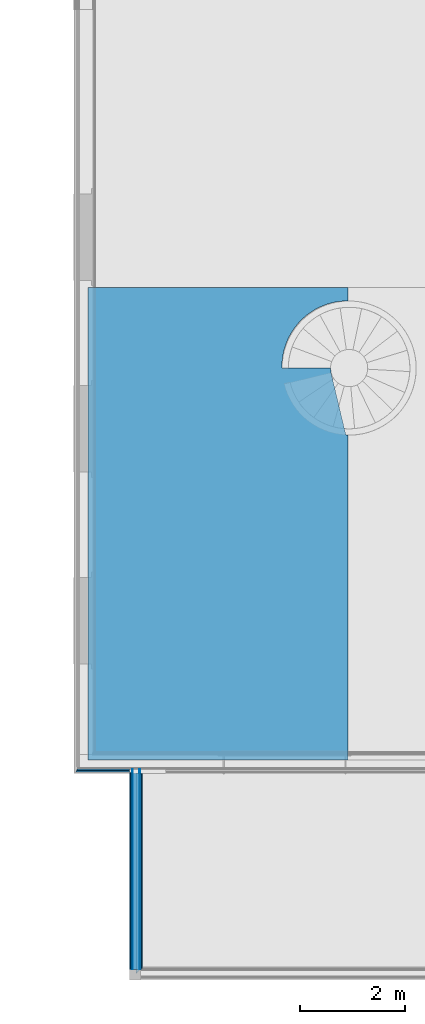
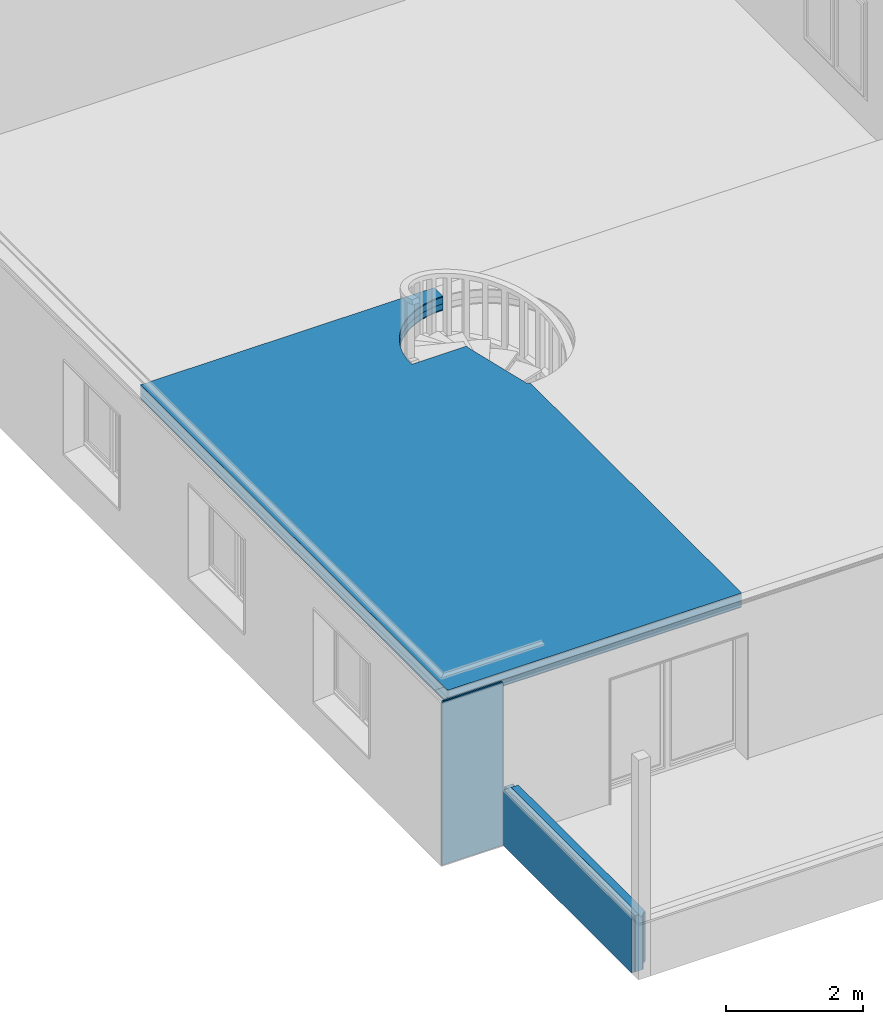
# One storey, part 3 of 36: 14 building element parts, 6 elements without a shape of their own.
"""IFC4 building model written with IfcOpenShell, lengths in millimetres."""

from ifc_helpers import new_model, entity, si_unit, converted_unit, derived_unit, direction, frame, origin_with_axes, place, context, subcontext, project, spatial, polygons, material, type_object, element, aggregate, save


model = new_model("IFC4")

# Units and contexts
model_context = context("Model", 3, precision=0.01, world=origin_with_axes(), true_north=direction((0.0, 1.0)))
body_context = subcontext(model_context, "Body", "Model", "MODEL_VIEW")
ifc_project = project(units=[si_unit("LENGTHUNIT", "METRE", prefix="MILLI"), si_unit("AREAUNIT", "SQUARE_METRE"), si_unit("VOLUMEUNIT", "CUBIC_METRE"), converted_unit("PLANEANGLEUNIT", "DEGREE", entity("IfcPlaneAngleMeasure", 0.0174532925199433), si_unit("PLANEANGLEUNIT", "RADIAN"), dimensions=[0, 0, 0, 0, 0, 0, 0]), converted_unit("TIMEUNIT", "Year", entity("IfcTimeMeasure", 31557600.0), si_unit("TIMEUNIT", "SECOND"), dimensions=[0, 0, 1, 0, 0, 0, 0]), si_unit("MASSUNIT", "GRAM", prefix="KILO"), si_unit("THERMODYNAMICTEMPERATUREUNIT", "DEGREE_CELSIUS"), si_unit("LUMINOUSINTENSITYUNIT", "LUMEN"), si_unit("ENERGYUNIT", "JOULE", prefix="MEGA"), derived_unit("THERMALCONDUCTANCEUNIT", [(si_unit("POWERUNIT", "WATT"), 1), (si_unit("LENGTHUNIT", "METRE"), -1), (si_unit("THERMODYNAMICTEMPERATUREUNIT", "KELVIN"), -1)]), derived_unit("SPECIFICHEATCAPACITYUNIT", [(si_unit("ENERGYUNIT", "JOULE"), 1), (si_unit("MASSUNIT", "GRAM", prefix="KILO"), -1), (si_unit("THERMODYNAMICTEMPERATUREUNIT", "KELVIN"), -1)]), derived_unit("MASSDENSITYUNIT", [(si_unit("MASSUNIT", "GRAM", prefix="KILO"), 1), (si_unit("VOLUMEUNIT", "CUBIC_METRE"), -1)])], contexts=[model_context])

# Site, building, storey
site_placement = place(None, origin_with_axes())
site = spatial("IfcSite", under=ifc_project, at=site_placement, Name="Gelände", CompositionType="ELEMENT")
building_placement = place(site_placement, origin_with_axes())
building = spatial("IfcBuilding", under=site, at=building_placement, Name="Gebäude", CompositionType="ELEMENT")
storey_placement = place(building_placement, frame((0.0, 0.0, 8700.0), z_axis=(0.0, 0.0, 1.0), x_axis=(1.0, 0.0, 0.0)))
storey = spatial("IfcBuildingStorey", under=building, at=storey_placement, Name="Attika", CompositionType="ELEMENT", Elevation=8700.0)

# Curtain wall, building element parts
curtain_wall_type_1 = type_object("IfcCurtainWallType", Name="Fassade Typ 02 - Vertikale Schalung 71", PredefinedType="NOTDEFINED")
curtain_wall_1_placement = place(storey_placement, frame((18974.99747005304, 8447.597281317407, 500.0000000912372), z_axis=(0.0, 0.0, 1.0), x_axis=(-1.0, 0.0, 0.0)))
curtain_wall_1 = element("IfcCurtainWall", 1, at=curtain_wall_1_placement, inside=storey, type_object=curtain_wall_type_1, Name="Wand-014", PredefinedType="NOTDEFINED")
ifc_material_1 = material(Name="Lattenrost horizontal")
building_element_part_1_placement = place(curtain_wall_1_placement, origin_with_axes())
building_element_part_1 = element("IfcBuildingElementPart", 2, at=building_element_part_1_placement, material=ifc_material_1, Name="Lattenrost horizontal", PredefinedType="NOTDEFINED", context=body_context, shape_type="Tessellation", body=[
    polygons([(1025.000025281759, -45.99999999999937, 4.750068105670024), (1000.000025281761, -45.9999999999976, 7.217997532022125), (0.0, -45.99999999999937, 7.217997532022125), (0.0, -45.99999999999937, 0.0), (1025.000025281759, -45.99999999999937, 0.0), (1025.000025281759, -21.0000000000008, 4.750068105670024), (0.0, -21.0000000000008, 4.750068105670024), (0.0, -21.0000000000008, 0.0), (1025.000025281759, -21.0000000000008, 0.0)], [[[1, 2, 3, 4, 5]], [[6, 2, 1]], [[2, 6, 7, 3]], [[3, 7, 8, 4]], [[9, 5, 4, 8]], [[6, 1, 5, 9]], [[7, 6, 9, 8]]], closed=True),
    polygons([(1025.000025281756, -20.99999999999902, 7.665565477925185), (1000.000025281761, -45.99999999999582, 10.23497075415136), (0.0, -45.99999999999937, 10.23497075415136), (0.0, -21.0000000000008, 7.665565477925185), (1025.000025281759, -45.99999999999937, 7.665565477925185), (1025.000025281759, -45.99999999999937, 2899.999999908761), (0.0, -45.99999999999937, 2899.999999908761), (0.0, -20.99999999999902, 2899.999999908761), (1025.000025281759, -20.99999999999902, 2899.999999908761)], [[[1, 2, 3, 4]], [[5, 2, 1]], [[2, 5, 6, 7, 3]], [[4, 3, 7, 8]], [[1, 4, 8, 9]], [[5, 1, 9, 6]], [[6, 9, 8, 7]]], closed=True),
])
ifc_material_2 = material(Name="Lattenrost vertikal")
building_element_part_2_placement = place(curtain_wall_1_placement, origin_with_axes())
building_element_part_2 = element("IfcBuildingElementPart", 3, at=building_element_part_2_placement, material=ifc_material_2, Name="Lattenrost vertikal", PredefinedType="NOTDEFINED", context=body_context, shape_type="Tessellation", body=[
    polygons([(1000.000025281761, -70.99999999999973, 7.217997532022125), (975.0000252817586, -70.99999999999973, 9.685926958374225), (0.0, -70.99999999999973, 9.685926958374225), (0.0, -70.99999999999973, 0.0), (1000.000025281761, -70.99999999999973, 0.0), (1000.000025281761, -45.99999999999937, 7.217997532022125), (0.0, -45.99999999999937, 7.217997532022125), (0.0, -45.99999999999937, 0.0), (1000.000025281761, -45.99999999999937, 0.0)], [[[1, 2, 3, 4, 5]], [[6, 2, 1]], [[2, 6, 7, 3]], [[3, 7, 8, 4]], [[9, 5, 4, 8]], [[6, 1, 5, 9]], [[7, 6, 9, 8]]], closed=True),
    polygons([(977.7000264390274, -68.29999884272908, 42.69563016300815), (977.7000264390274, -70.99999999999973, 42.69563016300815), (975.0000252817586, -70.99999999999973, 42.69563016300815), (0.0, -70.99999999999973, 42.69563016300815), (0.0, -68.29999884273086, 42.69563016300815), (977.7000264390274, -70.99999999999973, 12.52688014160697), (977.7000264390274, -68.29999884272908, 12.52688014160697), (1000.000025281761, -70.99999999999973, 10.23497075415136), (1000.000025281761, -70.99999999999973, 2899.999999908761), (0.0, -70.99999999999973, 2899.999999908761), (0.0, -68.29999884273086, 12.52688014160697), (0.0, -45.99999999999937, 2899.999999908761), (0.0, -45.99999999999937, 10.23497075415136), (1000.000025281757, -45.9999999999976, 10.23497075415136), (1000.000025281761, -45.99999999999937, 2899.999999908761)], [[[1, 2, 3, 4, 5]], [[6, 2, 1, 7]], [[6, 8, 9, 10, 4, 3, 2]], [[11, 5, 4, 10, 12, 13]], [[7, 1, 5, 11]], [[8, 6, 7, 14]], [[8, 14, 15, 9]], [[9, 15, 12, 10]], [[14, 13, 12, 15]], [[14, 7, 11, 13]]], closed=True),
])
aggregate(curtain_wall_1, [building_element_part_1, building_element_part_2])

# Curtain wall, building element part
curtain_wall_type_2 = type_object("IfcCurtainWallType", Name="Fassade Typ 03 - Horizontale Schalung 46", PredefinedType="NOTDEFINED")
curtain_wall_2_placement = place(storey_placement, frame((18974.99747005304, 8447.497281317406, 499.9998959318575), z_axis=(0.0, 0.0, 1.0), x_axis=(0.0, -1.0, 0.0)))
curtain_wall_2 = element("IfcCurtainWall", 4, at=curtain_wall_2_placement, inside=storey, type_object=curtain_wall_type_2, Name="Wand-017", PredefinedType="NOTDEFINED")
building_element_part_3_placement = place(curtain_wall_2_placement, origin_with_axes())
building_element_part_3 = element("IfcBuildingElementPart", 5, at=building_element_part_3_placement, material=ifc_material_2, Name="Lattenrost vertikal", PredefinedType="NOTDEFINED", context=body_context, shape_type="Tessellation", body=[
    polygons([(0.0, 21.0000000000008, 0.0), (0.0, 45.99999999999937, 0.0), (3728.899999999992, 45.99999999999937, 0.0), (3728.899999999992, 21.0000000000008, 0.0), (0.0, 21.0000000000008, 1000.0), (0.0, 45.99999999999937, 1000.0), (3728.899999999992, 45.99999999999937, 1000.0), (3728.899999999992, 21.0000000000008, 1000.0)], [[[1, 2, 3, 4]], [[5, 6, 2, 1]], [[2, 6, 7, 3]], [[8, 4, 3, 7]], [[5, 1, 4, 8]], [[6, 5, 8, 7]]], closed=True),
])

# Curtain wall, building element parts
curtain_wall_3_placement = place(storey_placement, frame((19216.99749132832, 8426.547059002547, 619.9998959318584), z_axis=(0.0, 0.0, 1.0), x_axis=(0.0, -1.0, 0.0)))
curtain_wall_3 = element("IfcCurtainWall", 6, at=curtain_wall_3_placement, inside=storey, type_object=curtain_wall_type_2, Name="Wand-017", PredefinedType="NOTDEFINED")
ifc_material_3 = material(Name="Falzschalung horizontal")
building_element_part_4_placement = place(curtain_wall_3_placement, origin_with_axes())
building_element_part_4 = element("IfcBuildingElementPart", 7, at=building_element_part_4_placement, material=ifc_material_3, Name="Falzschalung horizontal", PredefinedType="NOTDEFINED", context=body_context, shape_type="Tessellation", body=[
    polygons([(3686.949777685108, 0.0, 879.999999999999), (3686.949777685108, 0.0, 0.09999999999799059), (0.0, 0.0, 0.09999999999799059), (0.0, 0.0, 879.999999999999), (3686.949777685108, -21.0000000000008, 879.999999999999), (3686.949777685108, -21.0000000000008, 0.09999999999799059), (0.0, -21.0000000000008, 0.09999999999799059), (0.0, -21.0000000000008, 879.999999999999)], [[[1, 2, 3, 4]], [[5, 6, 2, 1]], [[6, 7, 3, 2]], [[4, 3, 7, 8]], [[8, 5, 1, 4]], [[8, 7, 6, 5]]], closed=True),
])
building_element_part_5_placement = place(curtain_wall_3_placement, origin_with_axes())
building_element_part_5 = element("IfcBuildingElementPart", 8, at=building_element_part_5_placement, material=ifc_material_2, Name="Lattenrost vertikal", PredefinedType="NOTDEFINED", context=body_context, shape_type="Tessellation", body=[
    polygons([(3707.949777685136, -42.00002127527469, 879.999999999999), (3711.949777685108, -42.00002127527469, 879.999999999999), (3711.949777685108, -21.0000000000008, 879.999999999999), (0.0, -21.0000000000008, 879.999999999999), (0.0, -45.99999999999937, 879.999999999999), (3707.949777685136, -45.99999999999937, 879.999999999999), (3707.949777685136, -42.00002127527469, 0.0), (3711.949777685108, -42.00002127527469, 0.0), (3711.949777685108, -21.0000000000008, 0.0), (0.0, -21.0000000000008, 0.0), (0.0, -45.99999999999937, 0.0), (3707.949777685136, -45.99999999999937, 0.0)], [[[1, 2, 3, 4, 5, 6]], [[2, 1, 7, 8]], [[2, 8, 9, 3]], [[4, 3, 9, 10]], [[10, 11, 5, 4]], [[12, 6, 5, 11]], [[1, 6, 12, 7]], [[7, 12, 11, 10, 9, 8]]], closed=True),
])
aggregate(curtain_wall_3, [building_element_part_4, building_element_part_5])

# Building element part
building_element_part_6_placement = place(curtain_wall_2_placement, origin_with_axes())
building_element_part_6 = element("IfcBuildingElementPart", 9, at=building_element_part_6_placement, material=ifc_material_3, Name="Falzschalung horizontal", PredefinedType="NOTDEFINED", context=body_context, shape_type="Tessellation", body=[
    polygons([(0.0, 0.0, 0.0), (0.0, 21.0000000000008, 0.0), (3728.899999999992, 21.0000000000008, 0.0), (3728.899999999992, 0.0, 0.0), (0.0, 0.0, 1000.0), (0.0, 21.0000000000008, 1000.0), (3728.899999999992, 21.0000000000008, 1000.0), (3728.899999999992, 0.0, 1000.0)], [[[1, 2, 3, 4]], [[5, 6, 2, 1]], [[2, 6, 7, 3]], [[8, 4, 3, 7]], [[5, 1, 4, 8]], [[6, 5, 8, 7]]], closed=True),
])

aggregate(curtain_wall_2, [building_element_part_3, building_element_part_6])

# Slab, building element parts
slab_type = type_object("IfcSlabType", Name="Geschossdecke Typ 01 256", PredefinedType="NOTDEFINED")
slab_placement = place(storey_placement, frame((18177.9975109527, 17662.67011252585, 3399.999896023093), z_axis=(0.0, 0.0, 1.0), x_axis=(1.0, 0.0, 0.0)))
slab = element("IfcSlab", 10, at=slab_placement, inside=storey, type_object=slab_type, Name="Deckennr.-073", PredefinedType="NOTDEFINED")
ifc_material_4 = material(Name="Balken Konstruktion ungedämmt")
building_element_part_7_placement = place(slab_placement, origin_with_axes())
building_element_part_7 = element("IfcBuildingElementPart", 11, at=building_element_part_7_placement, material=ifc_material_4, Name="Balken Konstruktion ungedämmt", PredefinedType="NOTDEFINED", context=body_context, shape_type="Tessellation", body=[
    polygons([(0.0, -8966.072831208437, -137.9999999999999), (0.0, -8966.072831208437, -18.00000000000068), (0.0, 0.0, -18.00000000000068), (0.0, 0.0, -137.9999999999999), (4946.726160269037, -8966.072831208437, -137.9999999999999), (4946.726160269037, -8966.072831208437, -18.00000000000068), (4946.726160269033, -2799.805119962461, -18.00000000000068), (4903.500286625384, -2798.501340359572, -18.00000000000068), (4620.099606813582, -1610.173924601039, -18.00000000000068), (4610.042486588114, -1526.457800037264, -18.00000000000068), (3690.042486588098, -1526.45780003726, -18.00000000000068), (3688.505909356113, -1484.568399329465, -18.00000000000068), (3694.646831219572, -1372.958075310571, -18.00000000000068), (3710.767703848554, -1262.347529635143, -18.00000000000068), (3736.738731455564, -1153.627333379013, -18.00000000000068), (3772.350810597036, -1047.672837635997, -18.00000000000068), (3817.317213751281, -945.3371257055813, -18.00000000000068), (3871.275897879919, -847.4441445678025, -18.00000000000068), (3933.792419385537, -754.7820709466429, -18.00000000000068), (4004.363431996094, -668.0969653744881, -18.00000000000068), (4082.420739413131, -588.086765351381, -18.00000000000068), (4167.335870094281, -515.395665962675, -18.00000000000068), (4258.425137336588, -450.6089331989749, -18.00000000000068), (4354.955143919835, -394.2481917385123, -18.00000000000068), (4456.148686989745, -346.7672251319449, -18.00000000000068), (4561.191015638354, -308.5483222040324, -18.00000000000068), (4669.236390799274, -279.8991990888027, -18.00000000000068), (4779.414894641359, -261.0505216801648, -18.00000000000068), (4890.839434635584, -252.1540484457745, -18.00000000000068), (4946.726160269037, -252.7177285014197, -18.00000000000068), (4946.726160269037, 0.0, -18.00000000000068), (4946.726160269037, 0.0, -137.9999999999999), (4946.726160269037, -252.7177285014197, -137.9999999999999), (4890.839434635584, -252.1540484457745, -137.9999999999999), (4779.414894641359, -261.0505216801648, -137.9999999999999), (4669.236390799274, -279.8991990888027, -137.9999999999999), (4561.191015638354, -308.5483222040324, -137.9999999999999), (4456.148686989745, -346.7672251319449, -137.9999999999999), (4354.955143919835, -394.2481917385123, -137.9999999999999), (4258.425137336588, -450.6089331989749, -137.9999999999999), (4167.335870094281, -515.395665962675, -137.9999999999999), (4082.420739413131, -588.086765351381, -137.9999999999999), (4004.363431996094, -668.0969653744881, -137.9999999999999), (3933.792419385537, -754.7820709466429, -137.9999999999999), (3871.275897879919, -847.4441445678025, -137.9999999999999), (3817.317213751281, -945.3371257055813, -137.9999999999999), (3772.350810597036, -1047.672837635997, -137.9999999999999), (3736.738731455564, -1153.627333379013, -137.9999999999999), (3710.767703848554, -1262.347529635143, -137.9999999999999), (3694.646831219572, -1372.958075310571, -137.9999999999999), (3688.505909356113, -1484.568399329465, -137.9999999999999), (3690.042486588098, -1526.45780003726, -137.9999999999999), (4610.042486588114, -1526.457800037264, -137.9999999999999), (4620.099606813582, -1610.173924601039, -137.9999999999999), (4903.500286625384, -2798.501340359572, -137.9999999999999), (4946.726160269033, -2799.805119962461, -137.9999999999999)], [[[1, 2, 3, 4]], [[5, 6, 2, 1]], [[3, 2, 6, 7, 8, 9, 10, 11, 12, 13, 14, 15, 16, 17, 18, 19, 20, 21, 22, 23, 24, 25, 26, 27, 28, 29, 30, 31]], [[4, 3, 31, 32]], [[4, 32, 33, 34, 35, 36, 37, 38, 39, 40, 41, 42, 43, 44, 45, 46, 47, 48, 49, 50, 51, 52, 53, 54, 55, 56, 5, 1]], [[56, 7, 6, 5]], [[55, 8, 7, 56]], [[54, 9, 8, 55]], [[53, 10, 9, 54]], [[52, 11, 10, 53]], [[51, 12, 11, 52]], [[50, 13, 12, 51]], [[49, 14, 13, 50]], [[48, 15, 14, 49]], [[47, 16, 15, 48]], [[46, 17, 16, 47]], [[45, 18, 17, 46]], [[44, 19, 18, 45]], [[43, 20, 19, 44]], [[42, 21, 20, 43]], [[41, 22, 21, 42]], [[40, 23, 22, 41]], [[39, 24, 23, 40]], [[38, 25, 24, 39]], [[37, 26, 25, 38]], [[36, 27, 26, 37]], [[35, 28, 27, 36]], [[34, 29, 28, 35]], [[33, 30, 29, 34]], [[32, 31, 30, 33]]], closed=True),
])
ifc_material_5 = material(Name="Grobspanplatte-OSB")
building_element_part_8_placement = place(slab_placement, origin_with_axes())
building_element_part_8 = element("IfcBuildingElementPart", 12, at=building_element_part_8_placement, material=ifc_material_5, Name="Grobspanplatte-OSB", PredefinedType="NOTDEFINED", context=body_context, shape_type="Tessellation", body=[
    polygons([(0.0, -8966.072831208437, -18.00000000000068), (0.0, -8966.072831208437, 0.0), (0.0, 0.0, 0.0), (0.0, 0.0, -18.00000000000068), (4946.726160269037, -8966.072831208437, -18.00000000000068), (4946.726160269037, -8966.072831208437, 0.0), (4946.726160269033, -2799.805119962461, 0.0), (4903.500286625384, -2798.501340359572, 0.0), (4620.099606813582, -1610.173924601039, 0.0), (4610.042486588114, -1526.457800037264, 0.0), (3690.042486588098, -1526.45780003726, 0.0), (3688.505909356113, -1484.568399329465, 0.0), (3694.646831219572, -1372.958075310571, 0.0), (3710.767703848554, -1262.347529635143, 0.0), (3736.738731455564, -1153.627333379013, 0.0), (3772.350810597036, -1047.672837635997, 0.0), (3817.317213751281, -945.3371257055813, 0.0), (3871.275897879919, -847.4441445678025, 0.0), (3933.792419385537, -754.7820709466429, 0.0), (4004.363431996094, -668.0969653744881, 0.0), (4082.420739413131, -588.086765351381, 0.0), (4167.335870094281, -515.395665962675, 0.0), (4258.425137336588, -450.6089331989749, 0.0), (4354.955143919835, -394.2481917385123, 0.0), (4456.148686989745, -346.7672251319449, 0.0), (4561.191015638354, -308.5483222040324, 0.0), (4669.236390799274, -279.8991990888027, 0.0), (4779.414894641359, -261.0505216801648, 0.0), (4890.839434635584, -252.1540484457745, 0.0), (4946.726160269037, -252.7177285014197, 0.0), (4946.726160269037, 0.0, 0.0), (4946.726160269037, 0.0, -18.00000000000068), (4946.726160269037, -252.7177285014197, -18.00000000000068), (4890.839434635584, -252.1540484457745, -18.00000000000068), (4779.414894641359, -261.0505216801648, -18.00000000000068), (4669.236390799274, -279.8991990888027, -18.00000000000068), (4561.191015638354, -308.5483222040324, -18.00000000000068), (4456.148686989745, -346.7672251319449, -18.00000000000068), (4354.955143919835, -394.2481917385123, -18.00000000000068), (4258.425137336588, -450.6089331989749, -18.00000000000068), (4167.335870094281, -515.395665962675, -18.00000000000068), (4082.420739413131, -588.086765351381, -18.00000000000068), (4004.363431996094, -668.0969653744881, -18.00000000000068), (3933.792419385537, -754.7820709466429, -18.00000000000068), (3871.275897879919, -847.4441445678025, -18.00000000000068), (3817.317213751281, -945.3371257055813, -18.00000000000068), (3772.350810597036, -1047.672837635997, -18.00000000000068), (3736.738731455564, -1153.627333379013, -18.00000000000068), (3710.767703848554, -1262.347529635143, -18.00000000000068), (3694.646831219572, -1372.958075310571, -18.00000000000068), (3688.505909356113, -1484.568399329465, -18.00000000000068), (3690.042486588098, -1526.45780003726, -18.00000000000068), (4610.042486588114, -1526.457800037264, -18.00000000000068), (4620.099606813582, -1610.173924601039, -18.00000000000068), (4903.500286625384, -2798.501340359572, -18.00000000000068), (4946.726160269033, -2799.805119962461, -18.00000000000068)], [[[1, 2, 3, 4]], [[5, 6, 2, 1]], [[3, 2, 6, 7, 8, 9, 10, 11, 12, 13, 14, 15, 16, 17, 18, 19, 20, 21, 22, 23, 24, 25, 26, 27, 28, 29, 30, 31]], [[4, 3, 31, 32]], [[4, 32, 33, 34, 35, 36, 37, 38, 39, 40, 41, 42, 43, 44, 45, 46, 47, 48, 49, 50, 51, 52, 53, 54, 55, 56, 5, 1]], [[56, 7, 6, 5]], [[55, 8, 7, 56]], [[54, 9, 8, 55]], [[53, 10, 9, 54]], [[52, 11, 10, 53]], [[51, 12, 11, 52]], [[50, 13, 12, 51]], [[49, 14, 13, 50]], [[48, 15, 14, 49]], [[47, 16, 15, 48]], [[46, 17, 16, 47]], [[45, 18, 17, 46]], [[44, 19, 18, 45]], [[43, 20, 19, 44]], [[42, 21, 20, 43]], [[41, 22, 21, 42]], [[40, 23, 22, 41]], [[39, 24, 23, 40]], [[38, 25, 24, 39]], [[37, 26, 25, 38]], [[36, 27, 26, 37]], [[35, 28, 27, 36]], [[34, 29, 28, 35]], [[33, 30, 29, 34]], [[32, 31, 30, 33]]], closed=True),
])
building_element_part_9_placement = place(slab_placement, origin_with_axes())
building_element_part_9 = element("IfcBuildingElementPart", 13, at=building_element_part_9_placement, material=ifc_material_5, Name="Grobspanplatte-OSB", PredefinedType="NOTDEFINED", context=body_context, shape_type="Tessellation", body=[
    polygons([(0.0, 0.0, -256.0000000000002), (0.0, -8966.072831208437, -256.0000000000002), (0.0, -8966.072831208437, -237.9999999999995), (0.0, 0.0, -237.9999999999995), (4946.726160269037, 0.0, -256.0000000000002), (4946.726160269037, -252.7177285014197, -256.0000000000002), (4890.839434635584, -252.1540484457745, -256.0000000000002), (4779.414894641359, -261.0505216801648, -256.0000000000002), (4669.236390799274, -279.8991990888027, -256.0000000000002), (4561.191015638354, -308.5483222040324, -256.0000000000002), (4456.148686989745, -346.7672251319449, -256.0000000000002), (4354.955143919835, -394.2481917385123, -256.0000000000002), (4258.425137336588, -450.6089331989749, -256.0000000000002), (4167.335870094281, -515.395665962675, -256.0000000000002), (4082.420739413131, -588.086765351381, -256.0000000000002), (4004.363431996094, -668.0969653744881, -256.0000000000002), (3933.792419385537, -754.7820709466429, -256.0000000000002), (3871.275897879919, -847.4441445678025, -256.0000000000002), (3817.317213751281, -945.3371257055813, -256.0000000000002), (3772.350810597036, -1047.672837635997, -256.0000000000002), (3736.738731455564, -1153.627333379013, -256.0000000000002), (3710.767703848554, -1262.347529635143, -256.0000000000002), (3694.646831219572, -1372.958075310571, -256.0000000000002), (3688.505909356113, -1484.568399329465, -256.0000000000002), (3690.042486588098, -1526.45780003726, -256.0000000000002), (4610.042486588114, -1526.457800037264, -256.0000000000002), (4620.099606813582, -1610.173924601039, -256.0000000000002), (4903.500286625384, -2798.501340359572, -256.0000000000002), (4946.726160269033, -2799.805119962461, -256.0000000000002), (4946.726160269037, -8966.072831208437, -256.0000000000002), (4946.726160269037, -8966.072831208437, -237.9999999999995), (4946.726160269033, -2799.805119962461, -237.9999999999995), (4903.500286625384, -2798.501340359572, -237.9999999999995), (4620.099606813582, -1610.173924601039, -237.9999999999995), (4610.042486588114, -1526.457800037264, -237.9999999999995), (3690.042486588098, -1526.45780003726, -237.9999999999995), (3688.505909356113, -1484.568399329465, -237.9999999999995), (3694.646831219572, -1372.958075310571, -237.9999999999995), (3710.767703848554, -1262.347529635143, -237.9999999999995), (3736.738731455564, -1153.627333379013, -237.9999999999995), (3772.350810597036, -1047.672837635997, -237.9999999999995), (3817.317213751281, -945.3371257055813, -237.9999999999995), (3871.275897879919, -847.4441445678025, -237.9999999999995), (3933.792419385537, -754.7820709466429, -237.9999999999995), (4004.363431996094, -668.0969653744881, -237.9999999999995), (4082.420739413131, -588.086765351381, -237.9999999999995), (4167.335870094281, -515.395665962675, -237.9999999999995), (4258.425137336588, -450.6089331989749, -237.9999999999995), (4354.955143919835, -394.2481917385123, -237.9999999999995), (4456.148686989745, -346.7672251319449, -237.9999999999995), (4561.191015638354, -308.5483222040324, -237.9999999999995), (4669.236390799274, -279.8991990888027, -237.9999999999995), (4779.414894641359, -261.0505216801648, -237.9999999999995), (4890.839434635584, -252.1540484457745, -237.9999999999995), (4946.726160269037, -252.7177285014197, -237.9999999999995), (4946.726160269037, 0.0, -237.9999999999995)], [[[1, 2, 3, 4]], [[1, 5, 6, 7, 8, 9, 10, 11, 12, 13, 14, 15, 16, 17, 18, 19, 20, 21, 22, 23, 24, 25, 26, 27, 28, 29, 30, 2]], [[2, 30, 31, 3]], [[4, 3, 31, 32, 33, 34, 35, 36, 37, 38, 39, 40, 41, 42, 43, 44, 45, 46, 47, 48, 49, 50, 51, 52, 53, 54, 55, 56]], [[5, 1, 4, 56]], [[6, 5, 56, 55]], [[7, 6, 55, 54]], [[8, 7, 54, 53]], [[9, 8, 53, 52]], [[10, 9, 52, 51]], [[11, 10, 51, 50]], [[12, 11, 50, 49]], [[13, 12, 49, 48]], [[14, 13, 48, 47]], [[15, 14, 47, 46]], [[16, 15, 46, 45]], [[17, 16, 45, 44]], [[18, 17, 44, 43]], [[19, 18, 43, 42]], [[20, 19, 42, 41]], [[21, 20, 41, 40]], [[22, 21, 40, 39]], [[23, 22, 39, 38]], [[24, 23, 38, 37]], [[25, 24, 37, 36]], [[26, 25, 36, 35]], [[27, 26, 35, 34]], [[28, 27, 34, 33]], [[29, 28, 33, 32]], [[30, 29, 32, 31]]], closed=True),
])
ifc_material_6 = material(Name="Balken Konstruktion gedämmt")
building_element_part_10_placement = place(slab_placement, origin_with_axes())
building_element_part_10 = element("IfcBuildingElementPart", 14, at=building_element_part_10_placement, material=ifc_material_6, Name="Balken Konstruktion gedämmt", PredefinedType="NOTDEFINED", context=body_context, shape_type="Tessellation", body=[
    polygons([(0.0, -8966.072831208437, -237.9999999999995), (0.0, -8966.072831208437, -137.9999999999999), (0.0, 0.0, -137.9999999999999), (0.0, 0.0, -237.9999999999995), (4946.726160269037, -8966.072831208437, -237.9999999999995), (4946.726160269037, -8966.072831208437, -137.9999999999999), (4946.726160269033, -2799.805119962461, -137.9999999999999), (4903.500286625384, -2798.501340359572, -137.9999999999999), (4620.099606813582, -1610.173924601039, -137.9999999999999), (4610.042486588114, -1526.457800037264, -137.9999999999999), (3690.042486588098, -1526.45780003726, -137.9999999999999), (3688.505909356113, -1484.568399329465, -137.9999999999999), (3694.646831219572, -1372.958075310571, -137.9999999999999), (3710.767703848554, -1262.347529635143, -137.9999999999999), (3736.738731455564, -1153.627333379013, -137.9999999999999), (3772.350810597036, -1047.672837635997, -137.9999999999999), (3817.317213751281, -945.3371257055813, -137.9999999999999), (3871.275897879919, -847.4441445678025, -137.9999999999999), (3933.792419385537, -754.7820709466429, -137.9999999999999), (4004.363431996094, -668.0969653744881, -137.9999999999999), (4082.420739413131, -588.086765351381, -137.9999999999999), (4167.335870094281, -515.395665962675, -137.9999999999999), (4258.425137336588, -450.6089331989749, -137.9999999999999), (4354.955143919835, -394.2481917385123, -137.9999999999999), (4456.148686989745, -346.7672251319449, -137.9999999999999), (4561.191015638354, -308.5483222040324, -137.9999999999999), (4669.236390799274, -279.8991990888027, -137.9999999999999), (4779.414894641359, -261.0505216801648, -137.9999999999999), (4890.839434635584, -252.1540484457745, -137.9999999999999), (4946.726160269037, -252.7177285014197, -137.9999999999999), (4946.726160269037, 0.0, -137.9999999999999), (4946.726160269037, 0.0, -237.9999999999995), (4946.726160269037, -252.7177285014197, -237.9999999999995), (4890.839434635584, -252.1540484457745, -237.9999999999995), (4779.414894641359, -261.0505216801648, -237.9999999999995), (4669.236390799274, -279.8991990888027, -237.9999999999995), (4561.191015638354, -308.5483222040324, -237.9999999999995), (4456.148686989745, -346.7672251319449, -237.9999999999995), (4354.955143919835, -394.2481917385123, -237.9999999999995), (4258.425137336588, -450.6089331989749, -237.9999999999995), (4167.335870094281, -515.395665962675, -237.9999999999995), (4082.420739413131, -588.086765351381, -237.9999999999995), (4004.363431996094, -668.0969653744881, -237.9999999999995), (3933.792419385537, -754.7820709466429, -237.9999999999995), (3871.275897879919, -847.4441445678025, -237.9999999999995), (3817.317213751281, -945.3371257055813, -237.9999999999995), (3772.350810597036, -1047.672837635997, -237.9999999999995), (3736.738731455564, -1153.627333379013, -237.9999999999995), (3710.767703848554, -1262.347529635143, -237.9999999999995), (3694.646831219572, -1372.958075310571, -237.9999999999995), (3688.505909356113, -1484.568399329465, -237.9999999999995), (3690.042486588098, -1526.45780003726, -237.9999999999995), (4610.042486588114, -1526.457800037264, -237.9999999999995), (4620.099606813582, -1610.173924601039, -237.9999999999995), (4903.500286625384, -2798.501340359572, -237.9999999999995), (4946.726160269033, -2799.805119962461, -237.9999999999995)], [[[1, 2, 3, 4]], [[5, 6, 2, 1]], [[3, 2, 6, 7, 8, 9, 10, 11, 12, 13, 14, 15, 16, 17, 18, 19, 20, 21, 22, 23, 24, 25, 26, 27, 28, 29, 30, 31]], [[4, 3, 31, 32]], [[4, 32, 33, 34, 35, 36, 37, 38, 39, 40, 41, 42, 43, 44, 45, 46, 47, 48, 49, 50, 51, 52, 53, 54, 55, 56, 5, 1]], [[56, 7, 6, 5]], [[55, 8, 7, 56]], [[54, 9, 8, 55]], [[53, 10, 9, 54]], [[52, 11, 10, 53]], [[51, 12, 11, 52]], [[50, 13, 12, 51]], [[49, 14, 13, 50]], [[48, 15, 14, 49]], [[47, 16, 15, 48]], [[46, 17, 16, 47]], [[45, 18, 17, 46]], [[44, 19, 18, 45]], [[43, 20, 19, 44]], [[42, 21, 20, 43]], [[41, 22, 21, 42]], [[40, 23, 22, 41]], [[39, 24, 23, 40]], [[38, 25, 24, 39]], [[37, 26, 25, 38]], [[36, 27, 26, 37]], [[35, 28, 27, 36]], [[34, 29, 28, 35]], [[33, 30, 29, 34]], [[32, 31, 30, 33]]], closed=True),
])
aggregate(slab, [building_element_part_7, building_element_part_8, building_element_part_9, building_element_part_10])

# Curtain wall, building element part
curtain_wall_type_3 = type_object("IfcCurtainWallType", Name="Brüstungsabdeckung 01 250 x 33", PredefinedType="NOTDEFINED")
curtain_wall_4_placement = place(storey_placement, frame((19095.99747005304, 8447.597281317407, 1499.999895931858), z_axis=(0.0, 0.0, 1.0), x_axis=(-1.0, 0.0, 0.0)))
curtain_wall_4 = element("IfcCurtainWall", 15, at=curtain_wall_4_placement, inside=storey, type_object=curtain_wall_type_3, Name="Unterzug-027", PredefinedType="NOTDEFINED")
ifc_material_7 = material(Name="Stahl")
building_element_part_11_placement = place(curtain_wall_4_placement, origin_with_axes())
building_element_part_11 = element("IfcBuildingElementPart", 16, at=building_element_part_11_placement, material=ifc_material_7, Name="Stahl", PredefinedType="NOTDEFINED", context=body_context, shape_type="Tessellation", body=[
    polygons([(-125.0000415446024, 3682.999958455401, 2.526754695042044), (-125.0000005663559, 3682.999999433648, -29.99999999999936), (-125.0000005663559, 0.0, -29.99999999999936), (-125.0000415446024, 0.0, 2.526754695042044), (0.0, 3808.000000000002, 2.526754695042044), (0.0, 3808.000000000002, -1.205181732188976e-06), (-122.2999551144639, 3685.70004488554, -1.205181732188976e-06), (-122.2999551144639, 3685.70004488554, -29.99999999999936), (-122.2999551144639, 0.0, -29.99999999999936), (-122.2999551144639, 0.0, -1.205181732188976e-06), (0.0, 0.0, -1.205181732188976e-06), (0.0, 0.0, 2.526754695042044)], [[[1, 2, 3, 4]], [[1, 5, 6, 7, 8, 2]], [[2, 8, 9, 3]], [[4, 3, 9, 10, 11, 12]], [[5, 1, 4, 12]], [[6, 5, 12, 11]], [[7, 6, 11, 10]], [[8, 7, 10, 9]]], closed=True),
])
aggregate(curtain_wall_4, [building_element_part_11])

# Wall, building element parts
wall_type = type_object("IfcWallType", Name="Aussenwand Typ 02 150", PredefinedType="NOTDEFINED")
wall_placement = place(storey_placement, frame((19020.9974953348, 4718.597281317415, 499.9998959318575), z_axis=(0.0, 0.0, 1.0), x_axis=(0.0, 1.0, 0.0)))
wall = element("IfcWall", 17, at=wall_placement, inside=storey, type_object=wall_type, Name="Wand-017", PredefinedType="NOTDEFINED")
building_element_part_12_placement = place(wall_placement, origin_with_axes())
building_element_part_12 = element("IfcBuildingElementPart", 18, at=building_element_part_12_placement, material=ifc_material_5, Name="Grobspanplatte-OSB", PredefinedType="NOTDEFINED", context=body_context, shape_type="Tessellation", body=[
    polygons([(0.0, -15.00000000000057, 1000.0), (3799.89999999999, -15.00000000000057, 1000.0), (3799.89999999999, 0.0, 1000.0), (0.0, 0.0, 1000.0), (0.0, -15.00000000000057, 0.0), (3799.89999999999, -15.00000000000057, 0.0), (3799.89999999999, 0.0, 0.0), (0.0, 0.0, 0.0)], [[[1, 2, 3, 4]], [[5, 6, 2, 1]], [[3, 2, 6, 7]], [[4, 3, 7, 8]], [[5, 1, 4, 8]], [[8, 7, 6, 5]]], closed=True),
])
building_element_part_13_placement = place(wall_placement, origin_with_axes())
building_element_part_13 = element("IfcBuildingElementPart", 19, at=building_element_part_13_placement, material=ifc_material_5, Name="Grobspanplatte-OSB", PredefinedType="NOTDEFINED", context=body_context, shape_type="Tessellation", body=[
    polygons([(0.0, -149.9999999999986, 1000.0), (3799.89999999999, -149.9999999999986, 1000.0), (3799.89999999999, -135.0000000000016, 1000.0), (0.0, -135.0000000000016, 1000.0), (0.0, -149.9999999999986, 0.0), (3799.89999999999, -149.9999999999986, 0.0), (3799.89999999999, -135.0000000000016, 0.0), (0.0, -135.0000000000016, 0.0)], [[[1, 2, 3, 4]], [[5, 6, 2, 1]], [[3, 2, 6, 7]], [[4, 3, 7, 8]], [[5, 1, 4, 8]], [[8, 7, 6, 5]]], closed=True),
])
ifc_material_8 = material(Name="Ständer Konstruktion gedämmt")
building_element_part_14_placement = place(wall_placement, origin_with_axes())
building_element_part_14 = element("IfcBuildingElementPart", 20, at=building_element_part_14_placement, material=ifc_material_8, Name="Ständer Konstruktion gedämmt", PredefinedType="NOTDEFINED", context=body_context, shape_type="Tessellation", body=[
    polygons([(0.0, -135.0000000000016, 1000.0), (3799.89999999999, -135.0000000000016, 1000.0), (3799.89999999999, -15.00000000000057, 1000.0), (0.0, -15.00000000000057, 1000.0), (0.0, -135.0000000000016, 0.0), (3799.89999999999, -135.0000000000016, 0.0), (3799.89999999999, -15.00000000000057, 0.0), (0.0, -15.00000000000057, 0.0)], [[[1, 2, 3, 4]], [[5, 6, 2, 1]], [[3, 2, 6, 7]], [[4, 3, 7, 8]], [[5, 1, 4, 8]], [[8, 7, 6, 5]]], closed=True),
])
aggregate(wall, [building_element_part_12, building_element_part_13, building_element_part_14])

save(model, "model.ifc")
